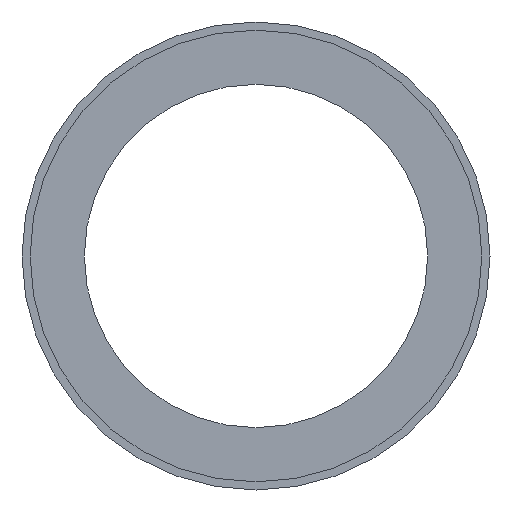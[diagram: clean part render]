
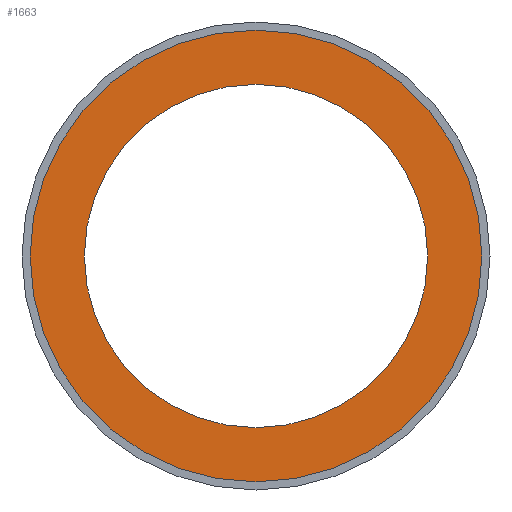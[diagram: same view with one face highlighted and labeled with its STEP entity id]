
A CAD part, front view. The second image highlights one B-rep face of the part: STEP entity #1663.
In plain terms, the highlighted planar face has unit normal (0, -1, 0).
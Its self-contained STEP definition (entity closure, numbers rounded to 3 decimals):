
#118 = CARTESIAN_POINT ( 'NONE',  ( 0., -32., 95. ) ) ;
#177 = EDGE_LOOP ( 'NONE', ( #5973, #2348 ) ) ;
#268 = DIRECTION ( 'NONE',  ( 0., -1., 0. ) ) ;
#416 = CIRCLE ( 'NONE', #1359, 95. ) ;
#531 = AXIS2_PLACEMENT_3D ( 'NONE', #5260, #2338, #3348 ) ;
#1202 = EDGE_CURVE ( 'NONE', #5493, #4239, #416, .T. ) ;
#1225 = EDGE_LOOP ( 'NONE', ( #3865, #6539 ) ) ;
#1359 = AXIS2_PLACEMENT_3D ( 'NONE', #2861, #268, #1812 ) ;
#1616 = CARTESIAN_POINT ( 'NONE',  ( 0., -32., 0. ) ) ;
#1663 = ADVANCED_FACE ( 'NONE', ( #6438, #2698 ), #2212, .F. ) ;
#1812 = DIRECTION ( 'NONE',  ( 0., 0., -1. ) ) ;
#1867 = CARTESIAN_POINT ( 'NONE',  ( 0., -32., -95. ) ) ;
#2052 = EDGE_CURVE ( 'NONE', #3602, #4991, #3289, .T. ) ;
#2141 = CARTESIAN_POINT ( 'NONE',  ( 0., -32., 125. ) ) ;
#2205 = DIRECTION ( 'NONE',  ( 0., -1., 0. ) ) ;
#2212 = PLANE ( 'NONE',  #5909 ) ;
#2233 = DIRECTION ( 'NONE',  ( 0., 1., 0. ) ) ;
#2253 = DIRECTION ( 'NONE',  ( 0., 0., 1. ) ) ;
#2338 = DIRECTION ( 'NONE',  ( 0., -1., 0. ) ) ;
#2348 = ORIENTED_EDGE ( 'NONE', *, *, #1202, .F. ) ;
#2698 = FACE_OUTER_BOUND ( 'NONE', #1225, .T. ) ;
#2833 = DIRECTION ( 'NONE',  ( 0., 0., -1. ) ) ;
#2861 = CARTESIAN_POINT ( 'NONE',  ( 0., -32., 0. ) ) ;
#3054 = EDGE_CURVE ( 'NONE', #4991, #3602, #4297, .T. ) ;
#3289 = CIRCLE ( 'NONE', #4891, 125. ) ;
#3348 = DIRECTION ( 'NONE',  ( 0., 0., -1. ) ) ;
#3602 = VERTEX_POINT ( 'NONE', #5499 ) ;
#3840 = CIRCLE ( 'NONE', #531, 95. ) ;
#3865 = ORIENTED_EDGE ( 'NONE', *, *, #2052, .T. ) ;
#4239 = VERTEX_POINT ( 'NONE', #1867 ) ;
#4297 = CIRCLE ( 'NONE', #4957, 125. ) ;
#4749 = DIRECTION ( 'NONE',  ( 0., 0., -1. ) ) ;
#4820 = CARTESIAN_POINT ( 'NONE',  ( 0., -32., 95. ) ) ;
#4891 = AXIS2_PLACEMENT_3D ( 'NONE', #1616, #2205, #4749 ) ;
#4957 = AXIS2_PLACEMENT_3D ( 'NONE', #6271, #6174, #2833 ) ;
#4991 = VERTEX_POINT ( 'NONE', #2141 ) ;
#5260 = CARTESIAN_POINT ( 'NONE',  ( 0., -32., 0. ) ) ;
#5493 = VERTEX_POINT ( 'NONE', #118 ) ;
#5499 = CARTESIAN_POINT ( 'NONE',  ( 0., -32., -125. ) ) ;
#5909 = AXIS2_PLACEMENT_3D ( 'NONE', #4820, #2233, #2253 ) ;
#5973 = ORIENTED_EDGE ( 'NONE', *, *, #6520, .F. ) ;
#6174 = DIRECTION ( 'NONE',  ( 0., -1., 0. ) ) ;
#6271 = CARTESIAN_POINT ( 'NONE',  ( 0., -32., 0. ) ) ;
#6438 = FACE_BOUND ( 'NONE', #177, .T. ) ;
#6520 = EDGE_CURVE ( 'NONE', #4239, #5493, #3840, .T. ) ;
#6539 = ORIENTED_EDGE ( 'NONE', *, *, #3054, .T. ) ;
